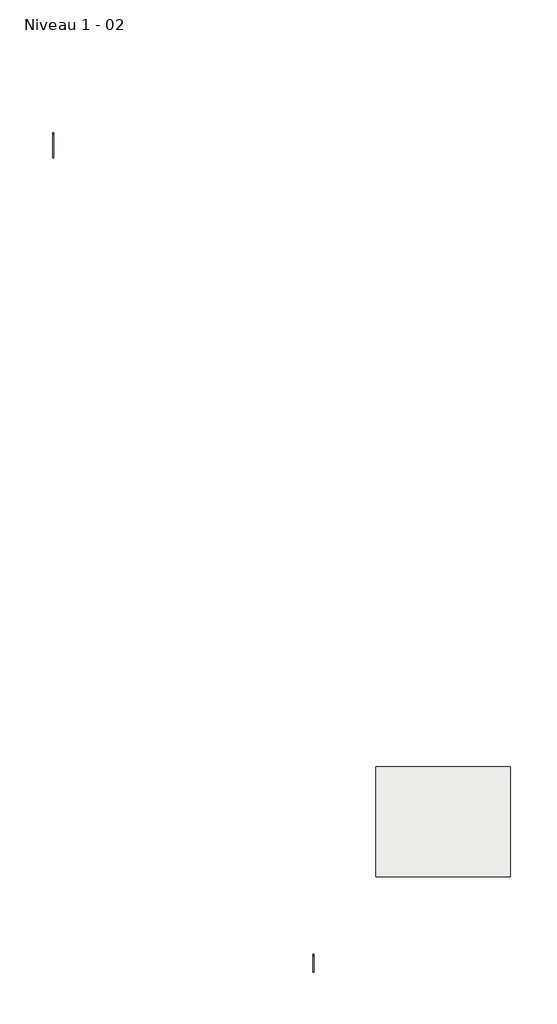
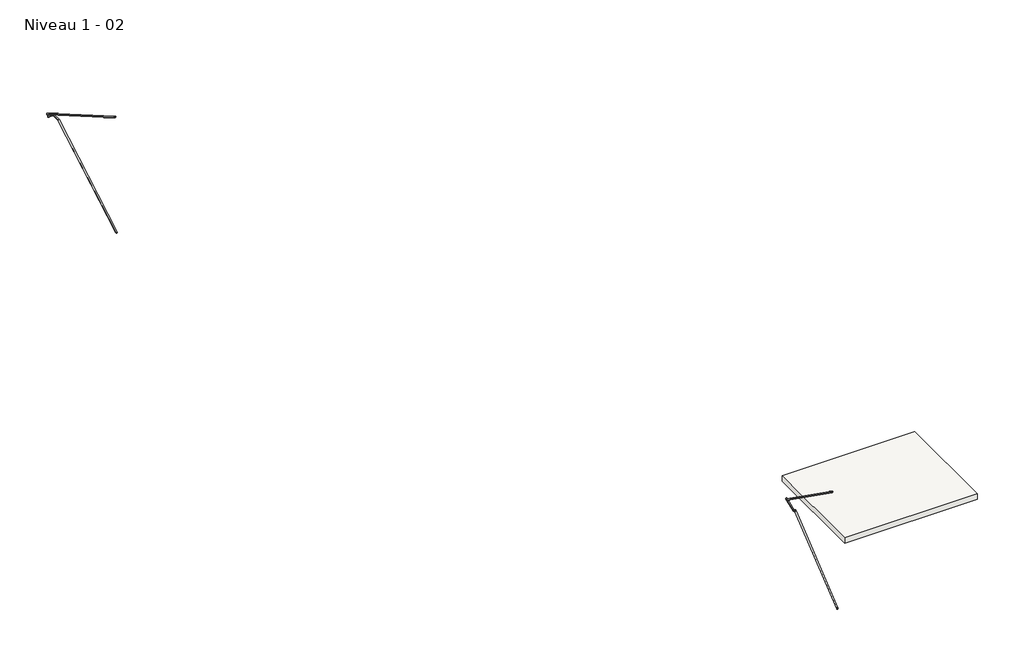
# One storey, incomplete: 2 railings, 1 slab.
"""IFC4 building model written with IfcOpenShell, lengths in millimetres."""

from ifc_helpers import new_model, si_unit, origin, place, context, project, spatial, faceted_brep, transform, mapped, element, save
from components import au_mur_37c76358, au_mur_a17d0cca

model = new_model("IFC4")

# Units and contexts
model_context = context("Model", 3, world=origin())
ifc_project = project(units=[si_unit("LENGTHUNIT", "METRE", prefix="MILLI")], contexts=[model_context])

# Site, building, storey
site = spatial("IfcSite", under=ifc_project)
building = spatial("IfcBuilding", under=site)
storey = spatial("IfcBuildingStorey", under=building, Name="Niveau 1 - 02", Elevation=4313.3082742)

# Railings
placement = place(None, origin())
au_mur_shape = au_mur_37c76358(model_context)
element("IfcRailing", 1, ObjectType="Au Mur", at=placement, inside=storey, context=model_context, shape_type="MappedRepresentation", body=[
    mapped(au_mur_shape, transform((0.0, 0.0, 0.0), x_axis=(1.0, 0.0, 0.0), y_axis=(0.0, 1.0, 0.0), z_axis=(0.0, 0.0, 1.0))),
])
au_mur_2_shape = au_mur_a17d0cca(model_context)
element("IfcRailing", 2, ObjectType="Au Mur", at=placement, inside=storey, context=model_context, shape_type="MappedRepresentation", body=[
    mapped(au_mur_2_shape, transform((0.0, 0.0, 0.0), x_axis=(1.0, 0.0, 0.0), y_axis=(0.0, 1.0, 0.0), z_axis=(0.0, 0.0, 1.0))),
])

# Slab
element("IfcSlab", 3, ObjectType="Béton sur place 150mm", at=placement, inside=storey, context=model_context, shape_type="Brep", body=[
    faceted_brep([(-9213.9891683, -2159.1151399, 4913.3082742), (-5877.0712168, -2159.1151399, 4913.3082742), (-5877.0712168, -4884.1151401, 4913.3082742), (-9213.9891683, -4884.1151401, 4913.3082742), (-9213.9891683, -2159.1151399, 5063.3082742), (-9213.9891683, -4884.1151401, 5063.3082742), (-5877.0712168, -4884.1151401, 5063.3082742), (-5877.0712168, -2159.1151399, 5063.3082742), (-5897.6697023, -2159.1151399, 5063.3082742)], [[[0, 1, 2, 3]], [[4, 5, 6, 7, 8]], [[0, 3, 5, 4]], [[3, 2, 6, 5]], [[2, 1, 7, 6]], [[1, 0, 4, 8, 7]]]),
])

save(model, "model.ifc")
